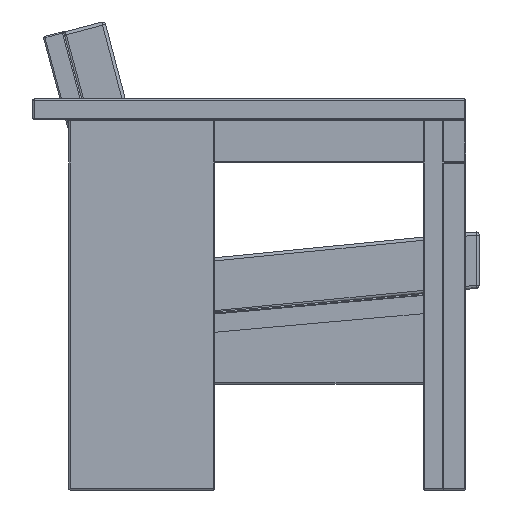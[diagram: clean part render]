
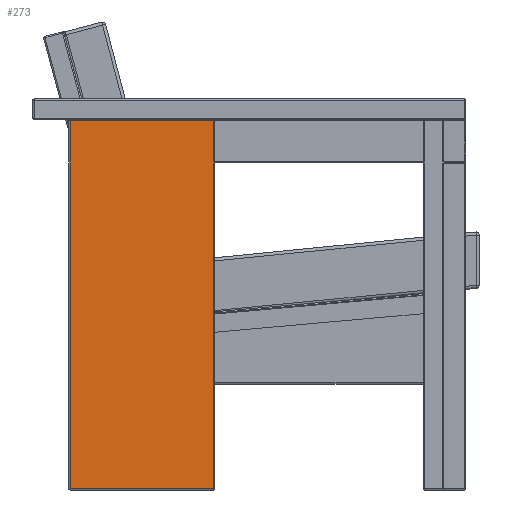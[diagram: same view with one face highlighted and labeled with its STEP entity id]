
A CAD part, left-side view. The second image highlights one B-rep face of the part: STEP entity #273.
In plain terms, the highlighted planar face has unit normal (-1, 0, 0).
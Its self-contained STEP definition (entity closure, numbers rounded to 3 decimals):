
#273=ADVANCED_FACE('',(#783),#6194,.T.);
#783=FACE_OUTER_BOUND('',#1293,.T.);
#1293=EDGE_LOOP('',(#2472,#2473,#2474,#2475));
#2472=ORIENTED_EDGE('',*,*,#4017,.T.);
#2473=ORIENTED_EDGE('',*,*,#4033,.F.);
#2474=ORIENTED_EDGE('',*,*,#4027,.F.);
#2475=ORIENTED_EDGE('',*,*,#4030,.F.);
#4017=EDGE_CURVE('',#5846,#5845,#4885,.T.);
#4027=EDGE_CURVE('',#5848,#5847,#4887,.T.);
#4030=EDGE_CURVE('',#5846,#5848,#4888,.T.);
#4033=EDGE_CURVE('',#5847,#5845,#4889,.T.);
#4885=B_SPLINE_CURVE_WITH_KNOTS('',1,(#11615,#11616),.UNSPECIFIED.,.F.,
 .F.,(2,2),(0.,228.),.UNSPECIFIED.);
#4887=B_SPLINE_CURVE_WITH_KNOTS('',1,(#11649,#11650),.UNSPECIFIED.,.F.,
 .F.,(2,2),(0.,228.),.UNSPECIFIED.);
#4888=B_SPLINE_CURVE_WITH_KNOTS('',1,(#11657,#11658),.UNSPECIFIED.,.F.,
 .F.,(2,2),(0.,586.),.UNSPECIFIED.);
#4889=B_SPLINE_CURVE_WITH_KNOTS('',1,(#11665,#11666),.UNSPECIFIED.,.F.,
 .F.,(2,2),(0.,586.),.UNSPECIFIED.);
#5845=VERTEX_POINT('',#11483);
#5846=VERTEX_POINT('',#11484);
#5847=VERTEX_POINT('',#11485);
#5848=VERTEX_POINT('',#11486);
#6194=PLANE('',#6897);
#6897=AXIS2_PLACEMENT_3D('',#11458,#7249,$);
#7249=DIRECTION('',(-1.,0.,0.));
#11458=CARTESIAN_POINT('',(-385.047,294.712,2.393));
#11483=CARTESIAN_POINT('',(-385.047,66.712,2.393));
#11484=CARTESIAN_POINT('',(-385.047,294.712,2.393));
#11485=CARTESIAN_POINT('',(-385.047,66.712,588.393));
#11486=CARTESIAN_POINT('',(-385.047,294.712,588.393));
#11615=CARTESIAN_POINT('',(-385.047,294.712,2.393));
#11616=CARTESIAN_POINT('',(-385.047,66.712,2.393));
#11649=CARTESIAN_POINT('',(-385.047,294.712,588.393));
#11650=CARTESIAN_POINT('',(-385.047,66.712,588.393));
#11657=CARTESIAN_POINT('',(-385.047,294.712,2.393));
#11658=CARTESIAN_POINT('',(-385.047,294.712,588.393));
#11665=CARTESIAN_POINT('',(-385.047,66.712,588.393));
#11666=CARTESIAN_POINT('',(-385.047,66.712,2.393));
